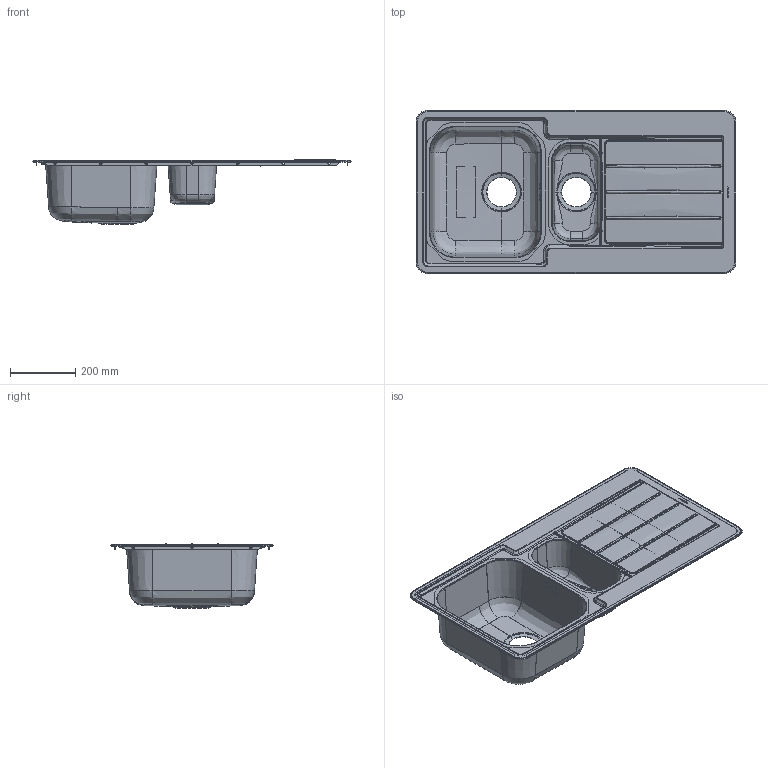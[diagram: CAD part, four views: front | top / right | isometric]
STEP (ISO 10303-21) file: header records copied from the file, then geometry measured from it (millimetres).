
FILE_DESCRIPTION((''),'2;1');
FILE_NAME('1089610-POM-LIN010R-SAK-90_ASM','2020-03-30T',('rafaelz'),('Audax d.o.o.'),'PRO/ENGINEER BY PARAMETRIC TECHNOLOGY CORPORATION, 2017170','PRO/ENGINEER BY PARAMETRIC TECHNOLOGY CORPORATION, 2017170','');
FILE_SCHEMA(('CONFIG_CONTROL_DESIGN'));
Products named in the file (8): 1086542-OKVIR-980X500_AF1; 1008048-POS-340X400-180Q-D9_AF1; 1049902-POS-148X300-120C-FI_AF1; 1069750-OJACITVENI-U-PROFIL-300; 1018622-OBLOGA-DNA-160X60X2_AF1; 1110455-TESNILO-KOMPONENTA-_AF1; 1086541-OKV-S-POS-LIN-10_AF0_ASM; 1089610-POM-LIN010R-SAK-90_ASM
Assembly tree (7 placements, depth 3):
  1089610-POM-LIN010R-SAK-90_ASM
    1086541-OKV-S-POS-LIN-10_AF0_ASM
      1086542-OKVIR-980X500_AF1
      1008048-POS-340X400-180Q-D9_AF1
      1049902-POS-148X300-120C-FI_AF1
      1069750-OJACITVENI-U-PROFIL-300
      1018622-OBLOGA-DNA-160X60X2_AF1
      1110455-TESNILO-KOMPONENTA-_AF1
Bounding box: 979.99 x 499.99 x 198.58 mm (x, y, z)
Volume: 763161.1 mm3; surface area: 1906545.1 mm2
Topology: 6 solids, 6 shells, 896 faces, 2243 edges, 1330 vertices
Faces by surface type: bspline 266, plane 236, cylinder 220, cone 80, torus 78, extrusion 10, sphere 6
Entity records: 56645 total; most frequent: CARTESIAN_POINT 36604, ORIENTED_EDGE 4486, DIRECTION 3767, EDGE_CURVE 2243, AXIS2_PLACEMENT_3D 1448, VERTEX_POINT 1330, EDGE_LOOP 927, FACE_OUTER_BOUND 896
